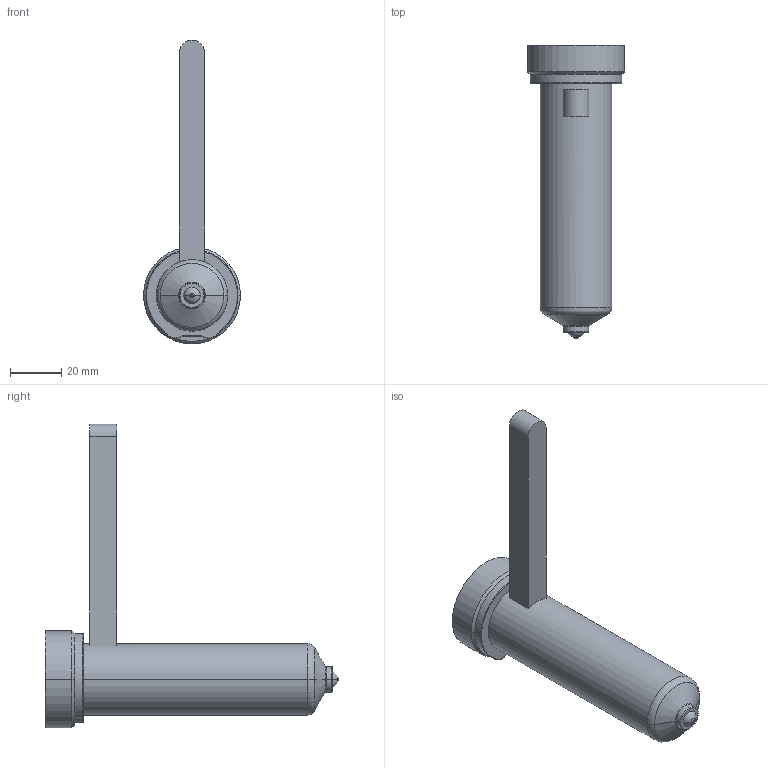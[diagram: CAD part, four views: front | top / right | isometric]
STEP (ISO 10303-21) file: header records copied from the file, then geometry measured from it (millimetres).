
FILE_DESCRIPTION((''),'2;1');
FILE_NAME('EO06_PG-BL_STD_100_COT','2024-02-19T11:01:49',('sundharh'),(''),'CREO PARAMETRIC BY PTC INC, 2023154','CREO PARAMETRIC BY PTC INC, 2023154','');
FILE_SCHEMA(('CONFIG_CONTROL_DESIGN'));
Length unit declared in the file: millimetre
Products named in the file (1): EO06_PG-BL_STD_100_COT
Bounding box: 38 x 115 x 119 mm (x, y, z)
Volume: 82416 mm3; surface area: 15468.6 mm2
Topology: 1 solids, 1 shells, 40 faces, 85 edges, 50 vertices
Faces by surface type: cylinder 13, plane 10, torus 9, cone 6, sphere 2
Entity records: 1197 total; most frequent: CARTESIAN_POINT 267, DIRECTION 209, ORIENTED_EDGE 170, AXIS2_PLACEMENT_3D 90, EDGE_CURVE 85, VERTEX_POINT 50, CIRCLE 50, EDGE_LOOP 43
